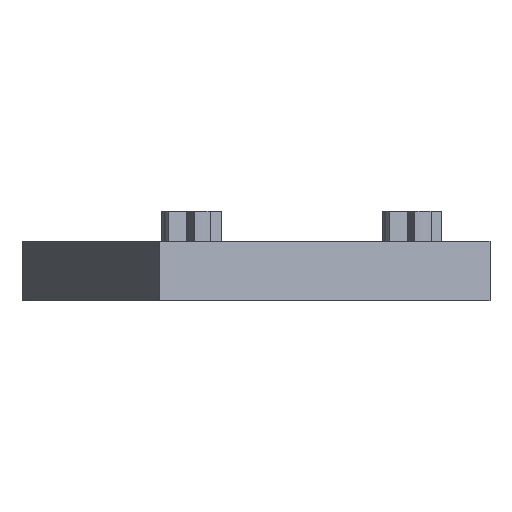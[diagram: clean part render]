
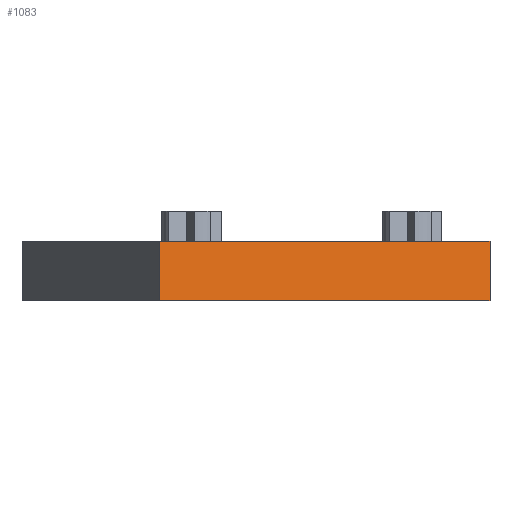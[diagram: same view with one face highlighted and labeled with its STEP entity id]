
A CAD part, left-side view. The second image highlights one B-rep face of the part: STEP entity #1083.
In plain terms, the highlighted planar face has unit normal (-0.924, -0.383, 0).
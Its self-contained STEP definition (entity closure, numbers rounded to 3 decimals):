
#55 = CARTESIAN_POINT ( 'NONE',  ( -27.716, 20.991, 0. ) ) ;
#156 = CARTESIAN_POINT ( 'NONE',  ( -16.236, -6.725, 0. ) ) ;
#218 = PLANE ( 'NONE',  #1286 ) ;
#297 = CARTESIAN_POINT ( 'NONE',  ( -27.716, 20.991, 0. ) ) ;
#300 = ORIENTED_EDGE ( 'NONE', *, *, #354, .T. ) ;
#308 = VECTOR ( 'NONE', #2013, 1000. ) ;
#334 = CARTESIAN_POINT ( 'NONE',  ( -16.236, -6.725, 0. ) ) ;
#354 = EDGE_CURVE ( 'NONE', #1604, #2068, #850, .T. ) ;
#364 = VERTEX_POINT ( 'NONE', #2167 ) ;
#401 = EDGE_LOOP ( 'NONE', ( #1218, #1497, #927, #300 ) ) ;
#812 = DIRECTION ( 'NONE',  ( 0.383, -0.924, 0. ) ) ;
#850 = LINE ( 'NONE', #334, #308 ) ;
#894 = FACE_OUTER_BOUND ( 'NONE', #401, .T. ) ;
#927 = ORIENTED_EDGE ( 'NONE', *, *, #1640, .T. ) ;
#963 = DIRECTION ( 'NONE',  ( 0.383, -0.924, 0. ) ) ;
#993 = LINE ( 'NONE', #1945, #2108 ) ;
#996 = CARTESIAN_POINT ( 'NONE',  ( -27.716, 20.991, 5. ) ) ;
#1083 = ADVANCED_FACE ( 'NONE', ( #894 ), #218, .T. ) ;
#1109 = VERTEX_POINT ( 'NONE', #1126 ) ;
#1125 = EDGE_CURVE ( 'NONE', #1109, #2068, #1311, .T. ) ;
#1126 = CARTESIAN_POINT ( 'NONE',  ( -27.716, 20.991, 5. ) ) ;
#1218 = ORIENTED_EDGE ( 'NONE', *, *, #1125, .F. ) ;
#1286 = AXIS2_PLACEMENT_3D ( 'NONE', #55, #1381, #1549 ) ;
#1302 = VECTOR ( 'NONE', #963, 1000. ) ;
#1309 = DIRECTION ( 'NONE',  ( 0., 0., 1. ) ) ;
#1311 = LINE ( 'NONE', #996, #1853 ) ;
#1381 = DIRECTION ( 'NONE',  ( -0.924, -0.383, 0. ) ) ;
#1465 = CARTESIAN_POINT ( 'NONE',  ( -16.236, -6.725, 5. ) ) ;
#1497 = ORIENTED_EDGE ( 'NONE', *, *, #1540, .F. ) ;
#1540 = EDGE_CURVE ( 'NONE', #364, #1109, #993, .T. ) ;
#1549 = DIRECTION ( 'NONE',  ( 0.383, -0.924, 0. ) ) ;
#1604 = VERTEX_POINT ( 'NONE', #156 ) ;
#1640 = EDGE_CURVE ( 'NONE', #364, #1604, #1977, .T. ) ;
#1853 = VECTOR ( 'NONE', #812, 1000. ) ;
#1945 = CARTESIAN_POINT ( 'NONE',  ( -27.716, 20.991, 0. ) ) ;
#1977 = LINE ( 'NONE', #297, #1302 ) ;
#2013 = DIRECTION ( 'NONE',  ( 0., 0., 1. ) ) ;
#2068 = VERTEX_POINT ( 'NONE', #1465 ) ;
#2108 = VECTOR ( 'NONE', #1309, 1000. ) ;
#2167 = CARTESIAN_POINT ( 'NONE',  ( -27.716, 20.991, 0. ) ) ;
